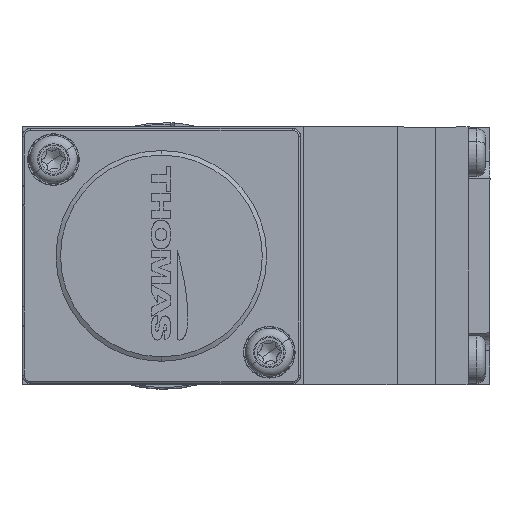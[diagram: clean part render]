
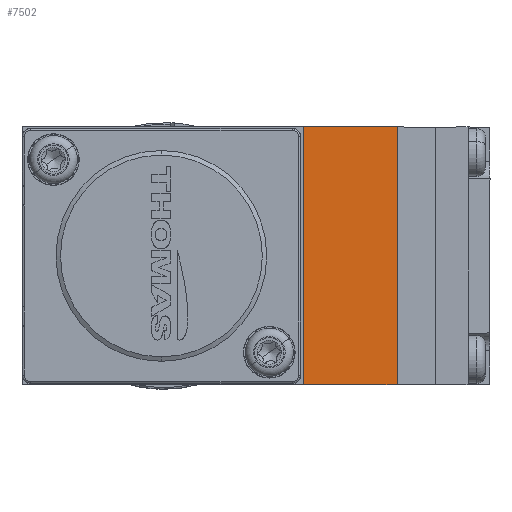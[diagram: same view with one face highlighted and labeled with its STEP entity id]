
A CAD part, left-side view. The second image highlights one B-rep face of the part: STEP entity #7502.
In plain terms, the highlighted planar face has unit normal (-1, 0, 0).
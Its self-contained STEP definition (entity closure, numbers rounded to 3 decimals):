
#334 = ORIENTED_EDGE ( 'NONE', *, *, #26549, .T. ) ;
#1705 = VERTEX_POINT ( 'NONE', #21291 ) ;
#3284 = CARTESIAN_POINT ( 'NONE',  ( -21., -16.2, -15. ) ) ;
#6471 = VECTOR ( 'NONE', #22968, 1000. ) ;
#6988 = EDGE_CURVE ( 'NONE', #19401, #29264, #33594, .T. ) ;
#7502 = ADVANCED_FACE ( 'NONE', ( #27295 ), #14086, .T. ) ;
#7771 = CARTESIAN_POINT ( 'NONE',  ( -21., -16.225, -15. ) ) ;
#8279 = EDGE_CURVE ( 'NONE', #1705, #21872, #23820, .T. ) ;
#10733 = DIRECTION ( 'NONE',  ( 0., -1., 0. ) ) ;
#10846 = DIRECTION ( 'NONE',  ( 0., 0., -1. ) ) ;
#11171 = CARTESIAN_POINT ( 'NONE',  ( -21., -27.1, -15. ) ) ;
#11805 = CARTESIAN_POINT ( 'NONE',  ( -21., -16.225, 15. ) ) ;
#13280 = ORIENTED_EDGE ( 'NONE', *, *, #29896, .F. ) ;
#14086 = PLANE ( 'NONE',  #26403 ) ;
#16895 = DIRECTION ( 'NONE',  ( 0., 1., 0. ) ) ;
#17835 = LINE ( 'NONE', #29369, #33015 ) ;
#18413 = VECTOR ( 'NONE', #10846, 1000. ) ;
#19401 = VERTEX_POINT ( 'NONE', #11805 ) ;
#21291 = CARTESIAN_POINT ( 'NONE',  ( -21., -27.1, 15. ) ) ;
#21872 = VERTEX_POINT ( 'NONE', #11171 ) ;
#22968 = DIRECTION ( 'NONE',  ( 0., -1., 0. ) ) ;
#23762 = LINE ( 'NONE', #34016, #6471 ) ;
#23820 = LINE ( 'NONE', #30345, #33951 ) ;
#25877 = ORIENTED_EDGE ( 'NONE', *, *, #8279, .F. ) ;
#26403 = AXIS2_PLACEMENT_3D ( 'NONE', #3284, #33043, #16895 ) ;
#26549 = EDGE_CURVE ( 'NONE', #29264, #21872, #23762, .T. ) ;
#27295 = FACE_OUTER_BOUND ( 'NONE', #29933, .T. ) ;
#28546 = ORIENTED_EDGE ( 'NONE', *, *, #6988, .T. ) ;
#29264 = VERTEX_POINT ( 'NONE', #7771 ) ;
#29369 = CARTESIAN_POINT ( 'NONE',  ( -21., -16.2, 15. ) ) ;
#29896 = EDGE_CURVE ( 'NONE', #19401, #1705, #17835, .T. ) ;
#29933 = EDGE_LOOP ( 'NONE', ( #25877, #13280, #28546, #334 ) ) ;
#30345 = CARTESIAN_POINT ( 'NONE',  ( -21., -27.1, -15. ) ) ;
#33015 = VECTOR ( 'NONE', #10733, 1000. ) ;
#33043 = DIRECTION ( 'NONE',  ( -1., 0., 0. ) ) ;
#33594 = LINE ( 'NONE', #34864, #18413 ) ;
#33951 = VECTOR ( 'NONE', #33977, 1000. ) ;
#33977 = DIRECTION ( 'NONE',  ( 0., 0., -1. ) ) ;
#34016 = CARTESIAN_POINT ( 'NONE',  ( -21., -16.2, -15. ) ) ;
#34864 = CARTESIAN_POINT ( 'NONE',  ( -21., -16.225, -15. ) ) ;
